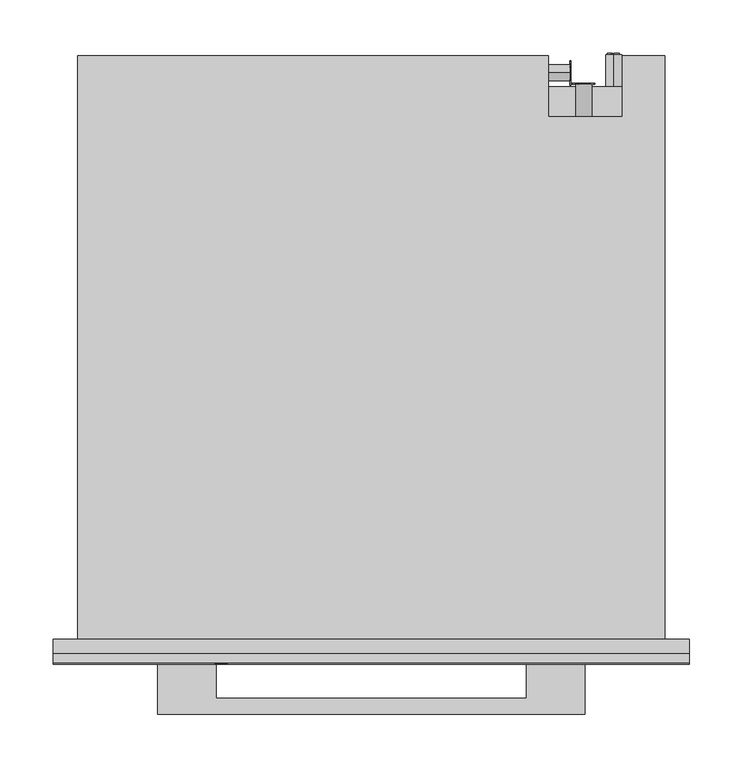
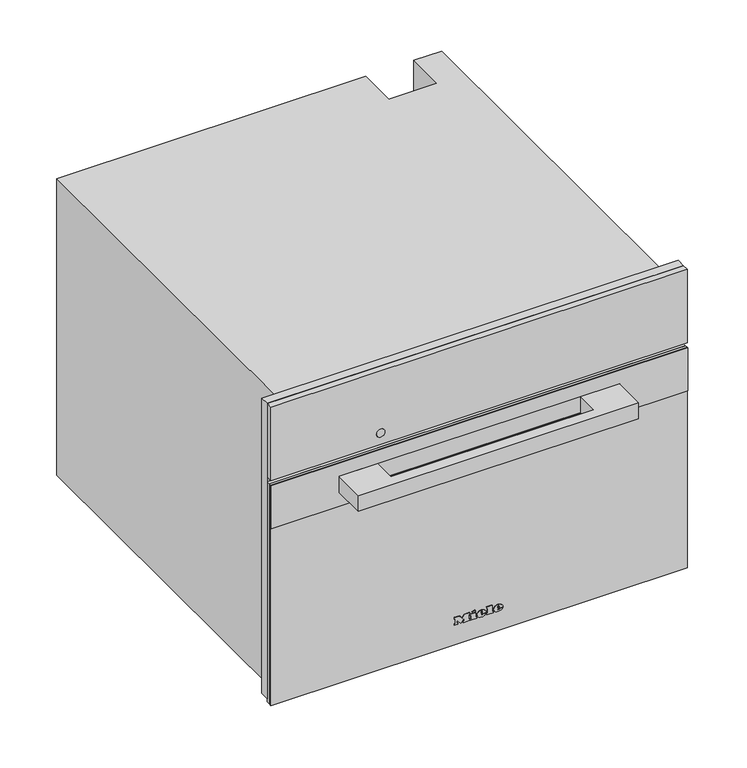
"""IFC4 building model written with IfcOpenShell, lengths in millimetres: proxy geometry, 12091740_NER_DGC7845HCPro_EDST-C : 23784548_NER_12091740_DGC7845HCPro_EDST-C."""

from ifc_helpers import new_model, si_unit, point, frame, frame_2d, origin, place, context, project, spatial, polyline, circle_curve, ellipse_curve, trimmed, segment, composite_curve, outline, extrude, faceted_brep, source, transform, mapped, element, save
from ifc_brep_helpers import plane_surface, cylinder_surface, revolved_surface, extruded_surface, advanced_brep


def specialty_equipment_19b5fff7(model_context):
    return source(origin(), model_context, "Body", "SolidModel", [
        extrude(outline(polyline([(455.0, 297.5), (455.0, -297.5), (9.0, -297.5), (9.0, 297.5), (455.0, 297.5)]), holes=[polyline([(344.0, -272.5), (344.0, 272.5), (27.0, 272.5), (27.0, -272.5), (344.0, -272.5)])]), frame((0.0, -13.0, 0.0), z_axis=(0.0, 1.0, 0.0), x_axis=(0.0, 0.0, 1.0)), (0.0, 0.0, 1.0), 13.0),
        extrude(outline(polyline([(383.0, 196.9217896), (383.0, 198.4267862), (393.0435673, 201.1942402), (393.0435673, 199.9014806), (384.4295103, 197.7797951), (393.0470645, 195.3087512), (393.0470645, 193.4373937), (384.4121052, 190.9191482), (393.0472266, 188.8443938), (393.0472266, 187.5376524), (383.0, 190.2769667), (383.0, 191.6257455), (391.8347238, 194.3884733), (383.0, 196.9217896)])), frame((0.0, 519.0, 0.0), z_axis=(0.0, 1.0, 0.0), x_axis=(0.0, 0.0, 1.0)), (0.0, 0.0, 1.0), 1.0),
        extrude(outline(polyline([(393.0468463, 209.521488), (393.0468463, 208.2566067), (388.129594, 208.2566067), (393.0474898, 203.1074328), (393.0474898, 201.3597489), (388.9313111, 205.6695027), (383.0, 201.1858157), (383.0, 202.7358731), (388.0700777, 206.5685235), (386.4282746, 208.2823622), (383.0, 208.2823622), (383.0, 209.521488), (393.0468463, 209.521488)])), frame((0.0, 519.0, 0.0), z_axis=(0.0, 1.0, 0.0), x_axis=(0.0, 0.0, 1.0)), (0.0, 0.0, 1.0), 1.0),
        extrude(outline(polyline([(518.3136153, 20.0), (522.323529, 30.045631), (523.3928394, 30.045631), (527.4027531, 20.0), (526.0759254, 20.0), (524.925681, 23.1392597), (520.7882348, 23.1392597), (519.640443, 20.0), (518.3136153, 20.0)]), holes=[polyline([(521.2493136, 24.3949636), (524.4670548, 24.3949636), (523.5620651, 26.864678), (522.8581842, 28.7899271), (522.2327848, 27.0805021), (521.2493136, 24.3949636)])]), frame((186.0, 0.0, 0.0), z_axis=(1.0, 0.0, 0.0), x_axis=(0.0, 1.0, 0.0)), (0.0, 0.0, 1.0), 1.0),
        extrude(outline(polyline([(530.5420128, 20.0), (527.8025182, 30.045631), (529.0974628, 30.045631), (530.6867131, 23.4433755), (531.1772224, 21.4053092), (531.7020674, 23.207931), (533.6935352, 30.045631), (535.5599232, 30.045631), (537.0069257, 25.0890343), (538.0835937, 21.4053092), (538.5593878, 23.3845144), (540.1633533, 30.045631), (541.4582979, 30.045631), (538.7163507, 20.0), (537.3748077, 20.0), (534.9664069, 27.7500474), (534.630408, 28.8316204), (534.2527159, 27.5293182), (532.0576866, 20.0), (530.5420128, 20.0)])), frame((186.0, 0.0, 0.0), z_axis=(1.0, 0.0, 0.0), x_axis=(0.0, 1.0, 0.0)), (0.0, 0.0, 1.0), 1.0),
        advanced_brep(
        [(227.0, 547.0, 255.5), (227.0, 547.0, 240.5), (221.4098301, 547.0, 243.0), (225.5, 547.0, 243.0), (225.5, 547.0, 253.0), (224.4955303, 547.0, 253.0), (224.4955303, 547.0, 244.0), (221.0315043, 547.0, 244.0), (221.0315043, 547.0, 243.4582978), (232.0, 547.0, 243.0), (232.0, 547.0, 253.0), (227.0, 547.0, 253.0), (227.0, 547.0, 252.0), (231.0, 547.0, 252.0), (231.0, 547.0, 248.5), (228.0, 547.0, 248.5), (228.0, 547.0, 247.5), (231.0, 547.0, 247.5), (231.0, 547.0, 244.0), (227.0, 547.0, 244.0), (227.0, 547.0, 243.0), (227.0, 517.0, 240.5), (227.0, 517.0, 255.5), (232.0, 548.0, 253.0), (232.0, 548.0, 243.0), (227.0, 548.0, 243.0), (227.0, 548.0, 244.0), (231.0, 548.0, 244.0), (231.0, 548.0, 247.5), (228.0, 548.0, 247.5), (228.0, 548.0, 248.5), (231.0, 548.0, 248.5), (231.0, 548.0, 252.0), (227.0, 548.0, 252.0), (227.0, 548.0, 253.0), (225.5, 548.0, 243.0), (221.0315043, 548.0, 243.0), (221.0315043, 548.0, 244.0), (224.4955303, 548.0, 244.0), (224.4955303, 548.0, 253.0), (225.5, 548.0, 253.0), (221.0315043, 547.0, 243.0)],
        [
            (0, 1, circle_curve(frame((227.0, 547.0, 248.0), z_axis=(0.0, 1.0, 0.0), x_axis=(0.0, 0.0, 1.0)), 7.5)),
            (1, 2, circle_curve(frame((227.0, 547.0, 248.0), z_axis=(0.0, 1.0, 0.0), x_axis=(0.0, 0.0, 1.0)), 7.5)),
            (2, 3),
            (3, 4),
            (4, 5),
            (5, 6),
            (6, 7),
            (7, 8),
            (8, 0, circle_curve(frame((227.0, 547.0, 248.0), z_axis=(0.0, 1.0, 0.0), x_axis=(0.0, 0.0, 1.0)), 7.5)),
            (9, 10),
            (10, 11),
            (11, 12),
            (12, 13),
            (13, 14),
            (14, 15),
            (15, 16),
            (16, 17),
            (17, 18),
            (18, 19),
            (19, 20),
            (20, 9),
            (21, 22, circle_curve(frame((227.0, 517.0, 248.0), z_axis=(0.0, -1.0, 0.0), x_axis=(0.0, 0.0, 1.0)), 7.5)),
            (22, 21, circle_curve(frame((227.0, 517.0, 248.0), z_axis=(0.0, -1.0, 0.0), x_axis=(0.0, 0.0, 1.0)), 7.5)),
            (0, 22),
            (21, 1),
            (8, 2, circle_curve(frame((227.0, 547.0, 248.0), z_axis=(0.0, -1.0, 0.0), x_axis=(0.0, 0.0, 1.0)), 7.5)),
            (23, 24),
            (24, 25),
            (25, 26),
            (26, 27),
            (27, 28),
            (28, 29),
            (29, 30),
            (30, 31),
            (31, 32),
            (32, 33),
            (33, 34),
            (34, 23),
            (35, 36),
            (36, 37),
            (37, 38),
            (38, 39),
            (39, 40),
            (40, 35),
            (8, 41),
            (41, 2),
            (23, 10),
            (9, 24),
            (20, 25),
            (19, 26),
            (18, 27),
            (17, 28),
            (16, 29),
            (15, 30),
            (14, 31),
            (13, 32),
            (12, 33),
            (11, 34),
            (35, 3),
            (41, 36),
            (7, 37),
            (6, 38),
            (5, 39),
            (4, 40),
        ],
        [
            plane_surface(frame((227.0, 547.0, 255.5), z_axis=(0.0, 1.0, 0.0), x_axis=(1.0, 0.0, 0.0))),
            plane_surface(frame((227.0, 517.0, 255.5), z_axis=(0.0, -1.0, 0.0), x_axis=(-1.0, 0.0, 0.0))),
            cylinder_surface(frame((227.0, 547.0, 248.0), z_axis=(0.0, -1.0, 0.0), x_axis=(0.0, 0.0, 1.0)), 7.5),
            plane_surface(frame((232.0, 548.0, 253.0), z_axis=(0.0, 1.0, 0.0), x_axis=(0.0, 0.0, -1.0))),
            plane_surface(frame((232.0, 547.0, 253.0), z_axis=(0.0, -1.0, 0.0), x_axis=(0.0, 0.0, 1.0))),
            plane_surface(frame((232.0, 548.0, 253.0), z_axis=(1.0, 0.0, 0.0), x_axis=(0.0, -1.0, 0.0))),
            plane_surface(frame((232.0, 548.0, 243.0), z_axis=(0.0, 0.0, -1.0), x_axis=(0.0, -1.0, 0.0))),
            plane_surface(frame((227.0, 548.0, 243.0), z_axis=(-1.0, 0.0, 0.0), x_axis=(0.0, -1.0, 0.0))),
            plane_surface(frame((227.0, 548.0, 244.0), z_axis=(0.0, 0.0, 1.0), x_axis=(0.0, -1.0, 0.0))),
            plane_surface(frame((231.0, 548.0, 244.0), z_axis=(-1.0, 0.0, 0.0), x_axis=(0.0, -1.0, 0.0))),
            plane_surface(frame((231.0, 548.0, 247.5), z_axis=(0.0, 0.0, -1.0), x_axis=(0.0, -1.0, 0.0))),
            plane_surface(frame((228.0, 548.0, 247.5), z_axis=(-1.0, 0.0, 0.0), x_axis=(0.0, -1.0, 0.0))),
            plane_surface(frame((228.0, 548.0, 248.5), z_axis=(0.0, 0.0, 1.0), x_axis=(0.0, -1.0, 0.0))),
            plane_surface(frame((231.0, 548.0, 248.5), z_axis=(-1.0, 0.0, 0.0), x_axis=(0.0, -1.0, 0.0))),
            plane_surface(frame((231.0, 548.0, 252.0), z_axis=(0.0, 0.0, -1.0), x_axis=(0.0, -1.0, 0.0))),
            plane_surface(frame((227.0, 548.0, 252.0), z_axis=(-1.0, 0.0, 0.0), x_axis=(0.0, -1.0, 0.0))),
            plane_surface(frame((227.0, 548.0, 253.0), z_axis=(0.0, 0.0, 1.0), x_axis=(0.0, -1.0, 0.0))),
            plane_surface(frame((225.5, 548.0, 243.0), z_axis=(0.0, 0.0, -1.0), x_axis=(0.0, -1.0, 0.0))),
            plane_surface(frame((221.0315043, 548.0, 243.0), z_axis=(-1.0, 0.0, 0.0), x_axis=(0.0, -1.0, 0.0))),
            plane_surface(frame((221.0315043, 548.0, 244.0), z_axis=(0.0, 0.0, 1.0), x_axis=(0.0, -1.0, 0.0))),
            plane_surface(frame((224.4955303, 548.0, 244.0), z_axis=(-1.0, 0.0, 0.0), x_axis=(0.0, -1.0, 0.0))),
            plane_surface(frame((224.4955303, 548.0, 253.0), z_axis=(0.0, 0.0, 1.0), x_axis=(0.0, -1.0, 0.0))),
            plane_surface(frame((225.5, 548.0, 253.0), z_axis=(1.0, 0.0, 0.0), x_axis=(0.0, -1.0, 0.0))),
        ],
        [
            (0, [[1, 2, 3, 4, 5, 6, 7, 8, 9], [10, 11, 12, 13, 14, 15, 16, 17, 18, 19, 20, 21]]),
            (1, [[22, 23]]),
            (2, [[-1, 24, -22, 25]]),
            (2, [[-23, -24, -9, 26, -2, -25]]),
            (3, [[27, 28, 29, 30, 31, 32, 33, 34, 35, 36, 37, 38]]),
            (3, [[39, 40, 41, 42, 43, 44]]),
            (4, [[45, 46, -26]]),
            (5, [[-27, 47, -10, 48]]),
            (6, [[-28, -48, -21, 49]]),
            (7, [[-29, -49, -20, 50]]),
            (8, [[-30, -50, -19, 51]]),
            (9, [[-31, -51, -18, 52]]),
            (10, [[-32, -52, -17, 53]]),
            (11, [[-33, -53, -16, 54]]),
            (12, [[-34, -54, -15, 55]]),
            (13, [[-35, -55, -14, 56]]),
            (14, [[-36, -56, -13, 57]]),
            (15, [[-37, -57, -12, 58]]),
            (16, [[-38, -58, -11, -47]]),
            (17, [[-39, 59, -3, -46, 60]]),
            (18, [[-40, -60, -45, -8, 61]]),
            (19, [[-41, -61, -7, 62]]),
            (20, [[-42, -62, -6, 63]]),
            (21, [[-43, -63, -5, 64]]),
            (22, [[-44, -64, -4, -59]]),
        ],
    ),
        extrude(outline(composite_curve([segment(trimmed(circle_curve(frame_2d((388.0, 199.0)), 7.5), [point((388.0, 206.5))], [point((388.0, 191.5))], False, "CARTESIAN"), True, "CONTINUOUS"), segment(trimmed(circle_curve(frame_2d((388.0, 199.0)), 7.5), [point((388.0, 191.5))], [point((388.0, 206.5))], False, "CARTESIAN"), True, "CONTINUOUS")], self_intersect=False)), frame((0.0, 489.0, 0.0), z_axis=(0.0, 1.0, 0.0), x_axis=(0.0, 0.0, 1.0)), (0.0, 0.0, 1.0), 30.0),
        extrude(outline(composite_curve([segment(trimmed(circle_curve(frame_2d((530.0, 25.0)), 7.5), [point((530.0, 17.5))], [point((530.0, 32.5))], False, "CARTESIAN"), True, "CONTINUOUS"), segment(trimmed(circle_curve(frame_2d((530.0, 25.0)), 7.5), [point((530.0, 32.5))], [point((530.0, 17.5))], False, "CARTESIAN"), True, "CONTINUOUS")], self_intersect=False)), frame((166.0, 0.0, 0.0), z_axis=(1.0, 0.0, 0.0), x_axis=(0.0, 1.0, 0.0)), (0.0, 0.0, 1.0), 20.0),
        faceted_brep([(-275.0, 546.0, 0.0), (-275.0, 546.0, 448.0), (166.0, 546.0, 448.0), (166.0, 546.0, 0.0), (235.0, 546.0, 448.0), (275.0, 546.0, 448.0), (275.0, 546.0, 338.0), (235.0, 546.0, 338.0), (275.0, 0.0, 448.0), (-275.0, 0.0, 448.0), (-275.0, 0.0, 0.0), (275.0, 0.0, 0.0), (-272.5, 0.0, 344.0), (272.5, 0.0, 344.0), (272.5, 0.0, 27.0), (-272.5, 0.0, 27.0), (235.0, 489.0, 448.0), (166.0, 489.0, 448.0), (166.0, 517.0, 0.0), (275.0, 517.0, 0.0), (275.0, 517.0, 338.0), (272.5, 17.0, 344.0), (-272.5, 17.0, 344.0), (-272.5, 17.0, 27.0), (272.5, 17.0, 27.0), (231.0, 17.0, 307.0), (231.0, 17.0, 65.0), (-231.0, 17.0, 65.0), (-231.0, 17.0, 307.0), (231.0, 411.0, 307.0), (-231.0, 411.0, 307.0), (-231.0, 411.0, 65.0), (231.0, 411.0, 65.0), (235.0, 489.0, 337.0), (166.0, 489.0, 337.0), (166.0, 517.0, 337.0), (235.0, 517.0, 337.0), (235.0, 517.0, 338.0)], [[[0, 1, 2, 3]], [[4, 5, 6, 7]], [[8, 9, 10, 11], [12, 13, 14, 15]], [[9, 8, 5, 4, 16, 17, 2, 1]], [[1, 0, 10, 9]], [[11, 10, 0, 3, 18, 19]], [[8, 11, 19, 20, 6, 5]], [[21, 22, 23, 24], [25, 26, 27, 28]], [[22, 21, 13, 12]], [[23, 22, 12, 15]], [[24, 23, 15, 14]], [[21, 24, 14, 13]], [[29, 30, 31, 32]], [[29, 32, 26, 25]], [[32, 31, 27, 26]], [[31, 30, 28, 27]], [[30, 29, 25, 28]], [[16, 33, 34, 17]], [[17, 34, 35, 18, 3, 2]], [[34, 33, 36, 35]], [[33, 16, 4, 7, 37, 36]], [[37, 20, 19, 18, 35, 36]], [[20, 37, 7, 6]]]),
        advanced_brep(
        [(26.2998, -23.0, 36.7018), (26.2998, -23.0, 37.8532), (33.9264, -23.0, 37.8532), (20.6568, -23.0, 37.8532), (23.7918, -23.0, 34.0), (33.7326, -23.0, 36.7018), (30.2898, -23.0, 36.7018), (27.5766, -23.0, 35.425), (26.2998, -23.0, 39.3124), (26.2998, -23.0, 40.555), (28.2492, -23.0, 40.555), (28.2492, -23.0, 39.3124), (26.2998, -22.0, 36.7018), (27.5766, -22.0, 35.425), (30.2898, -22.0, 36.7018), (33.7326, -22.0, 36.7018), (23.7918, -22.0, 34.0), (20.6568, -22.0, 37.8532), (33.9264, -22.0, 37.8532), (26.2998, -22.0, 37.8532), (26.2998, -22.0, 39.3124), (28.2492, -22.0, 39.3124), (28.2492, -22.0, 40.555), (26.2998, -22.0, 40.555)],
        [
            (0, 1),
            (1, 2),
            (2, 3, ellipse_curve(frame((27.2916, -23.0, 37.8532), z_axis=(0.0, -1.0, 0.0), x_axis=(-1.0, 0.0, 0.0)), 6.6348, 5.4834)),
            (3, 4, circle_curve(frame((25.0686622, -23.0, 38.2408), z_axis=(0.0, -1.0, 0.0), x_axis=(0.0, 0.0, -1.0)), 4.4288556)),
            (4, 5, circle_curve(frame((27.1587808, -23.0, 41.2504), z_axis=(0.0, -1.0, 0.0), x_axis=(0.0, 0.0, -1.0)), 7.9940516)),
            (5, 6),
            (6, 7, circle_curve(frame((28.1338588, -23.0, 37.762), z_axis=(0.0, 1.0, 0.0), x_axis=(0.0, 0.0, -1.0)), 2.4025208)),
            (7, 0, circle_curve(frame((27.5766, -23.0, 36.7018), z_axis=(0.0, 1.0, 0.0), x_axis=(0.0, 0.0, -1.0)), 1.2768)),
            (8, 9),
            (9, 10, circle_curve(frame((27.2745, -23.0, 40.555), z_axis=(0.0, 1.0, 0.0), x_axis=(0.0, 0.0, -1.0)), 0.9747)),
            (10, 11),
            (11, 8),
            (12, 13, circle_curve(frame((27.5766, -22.0, 36.7018), z_axis=(0.0, -1.0, 0.0), x_axis=(0.0, 0.0, -1.0)), 1.2768)),
            (13, 14, circle_curve(frame((28.1338588, -22.0, 37.762), z_axis=(0.0, -1.0, 0.0), x_axis=(0.0, 0.0, -1.0)), 2.4025208)),
            (14, 15),
            (15, 16, circle_curve(frame((27.1587808, -22.0, 41.2504), z_axis=(0.0, 1.0, 0.0), x_axis=(0.0, 0.0, -1.0)), 7.9940516)),
            (16, 17, circle_curve(frame((25.0686622, -22.0, 38.2408), z_axis=(0.0, 1.0, 0.0), x_axis=(0.0, 0.0, -1.0)), 4.4288556)),
            (17, 18, ellipse_curve(frame((27.2916, -22.0, 37.8532), z_axis=(0.0, 1.0, 0.0), x_axis=(-1.0, 0.0, 0.0)), 6.6348, 5.4834)),
            (18, 19),
            (19, 12),
            (20, 21),
            (21, 22),
            (22, 23, circle_curve(frame((27.2745, -22.0, 40.555), z_axis=(0.0, -1.0, 0.0), x_axis=(0.0, 0.0, -1.0)), 0.9747)),
            (23, 20),
            (0, 12),
            (19, 1),
            (18, 2),
            (5, 15),
            (14, 6),
            (17, 3),
            (13, 7),
            (16, 4),
            (8, 20),
            (23, 9),
            (22, 10),
            (21, 11),
        ],
        [
            plane_surface(frame((26.2998, -23.0, 37.8532), z_axis=(0.0, -1.0, 0.0), x_axis=(0.0, 0.0, 1.0))),
            plane_surface(frame((26.2998, -22.0, 37.8532), z_axis=(0.0, 1.0, 0.0), x_axis=(0.0, 0.0, -1.0))),
            plane_surface(frame((26.2998, -23.0, 36.7018), z_axis=(1.0, 0.0, 0.0), x_axis=(0.0, 1.0, 0.0))),
            plane_surface(frame((26.2998, -23.0, 37.8532), z_axis=(0.0, 0.0, -1.0), x_axis=(0.0, 1.0, 0.0))),
            plane_surface(frame((33.7326, -23.0, 36.7018), z_axis=(0.0, 0.0, 1.0), x_axis=(0.0, 1.0, 0.0))),
            extruded_surface(trimmed(ellipse_curve(frame((27.2916, -21.0, 37.8532), z_axis=(0.0, -1.0, 0.0), x_axis=(-1.0, 0.0, 0.0)), 6.6348, 5.4834), [point((33.9264, -21.0, 37.8532))], [point((20.6568, -21.0, 37.8532))], True, "CARTESIAN"), (0.0, -1.0, 0.0), 1.0),
            revolved_surface(polyline([(28.1338588, -22.0, 35.3594792), (28.1338588, -23.0, 35.3594792)]), (28.1338588, -22.0, 37.762), (0.0, 1.0, 0.0)),
            revolved_surface(polyline([(27.5766, -22.0, 35.425), (27.5766, -23.0, 35.425)]), (27.5766, -22.0, 36.7018), (0.0, 1.0, 0.0)),
            cylinder_surface(frame((25.0686622, -22.0, 38.2408), z_axis=(0.0, -1.0, 0.0), x_axis=(0.0, 0.0, -1.0)), 4.4288556),
            cylinder_surface(frame((27.1587808, -22.0, 41.2504), z_axis=(0.0, -1.0, 0.0), x_axis=(0.0, 0.0, -1.0)), 7.9940516),
            plane_surface(frame((26.2998, -23.0, 39.3124), z_axis=(1.0, 0.0, 0.0), x_axis=(0.0, 1.0, 0.0))),
            revolved_surface(polyline([(27.2745, -22.0, 39.5803), (27.2745, -23.0, 39.5803)]), (27.2745, -22.0, 40.555), (0.0, 1.0, 0.0)),
            plane_surface(frame((28.2492, -23.0, 40.555), z_axis=(-1.0, 0.0, 0.0), x_axis=(0.0, 1.0, 0.0))),
            plane_surface(frame((28.2492, -23.0, 39.3124), z_axis=(0.0, 0.0, 1.0), x_axis=(0.0, 1.0, 0.0))),
        ],
        [
            (0, [[1, 2, 3, 4, 5, 6, 7, 8], [9, 10, 11, 12]]),
            (1, [[13, 14, 15, 16, 17, 18, 19, 20], [21, 22, 23, 24]]),
            (2, [[-1, 25, -20, 26]]),
            (3, [[-2, -26, -19, 27]]),
            (4, [[-6, 28, -15, 29]]),
            (5, [[-3, -27, -18, 30]]),
            (6, [[-7, -29, -14, 31]]),
            (7, [[-8, -31, -13, -25]]),
            (8, [[-4, -30, -17, 32]]),
            (9, [[-5, -32, -16, -28]]),
            (10, [[-9, 33, -24, 34]]),
            (11, [[-10, -34, -23, 35]]),
            (12, [[-11, -35, -22, 36]]),
            (13, [[-12, -36, -21, -33]]),
        ],
    ),
        advanced_brep(
        [(2.508, -23.0, 36.7018), (2.508, -23.0, 37.8532), (10.1346, -23.0, 37.8532), (-3.135, -23.0, 37.8532), (0.0, -23.0, 34.0), (9.9408, -23.0, 36.7018), (6.498, -23.0, 36.7018), (3.7848, -23.0, 35.425), (2.508, -23.0, 39.3124), (2.508, -23.0, 40.555), (4.4574, -23.0, 40.555), (4.4574, -23.0, 39.3124), (2.508, -22.0, 36.7018), (3.7848, -22.0, 35.425), (6.498, -22.0, 36.7018), (9.9408, -22.0, 36.7018), (0.0, -22.0, 34.0), (-3.135, -22.0, 37.8532), (10.1346, -22.0, 37.8532), (2.508, -22.0, 37.8532), (2.508, -22.0, 39.3124), (4.4574, -22.0, 39.3124), (4.4574, -22.0, 40.555), (2.508, -22.0, 40.555)],
        [
            (0, 1),
            (1, 2),
            (2, 3, ellipse_curve(frame((3.4998, -23.0, 37.8532), z_axis=(0.0, -1.0, 0.0), x_axis=(-1.0, 0.0, 0.0)), 6.6348, 5.4834)),
            (3, 4, circle_curve(frame((1.2768622, -23.0, 38.2408), z_axis=(0.0, -1.0, 0.0), x_axis=(0.0, 0.0, -1.0)), 4.4288556)),
            (4, 5, circle_curve(frame((3.3669808, -23.0, 41.2504), z_axis=(0.0, -1.0, 0.0), x_axis=(0.0, 0.0, -1.0)), 7.9940516)),
            (5, 6),
            (6, 7, circle_curve(frame((4.3420588, -23.0, 37.762), z_axis=(0.0, 1.0, 0.0), x_axis=(0.0, 0.0, -1.0)), 2.4025208)),
            (7, 0, circle_curve(frame((3.7848, -23.0, 36.7018), z_axis=(0.0, 1.0, 0.0), x_axis=(0.0, 0.0, -1.0)), 1.2768)),
            (8, 9),
            (9, 10, circle_curve(frame((3.4827, -23.0, 40.555), z_axis=(0.0, 1.0, 0.0), x_axis=(0.0, 0.0, -1.0)), 0.9747)),
            (10, 11),
            (11, 8),
            (12, 13, circle_curve(frame((3.7848, -22.0, 36.7018), z_axis=(0.0, -1.0, 0.0), x_axis=(0.0, 0.0, -1.0)), 1.2768)),
            (13, 14, circle_curve(frame((4.3420588, -22.0, 37.762), z_axis=(0.0, -1.0, 0.0), x_axis=(0.0, 0.0, -1.0)), 2.4025208)),
            (14, 15),
            (15, 16, circle_curve(frame((3.3669808, -22.0, 41.2504), z_axis=(0.0, 1.0, 0.0), x_axis=(0.0, 0.0, -1.0)), 7.9940516)),
            (16, 17, circle_curve(frame((1.2768622, -22.0, 38.2408), z_axis=(0.0, 1.0, 0.0), x_axis=(0.0, 0.0, -1.0)), 4.4288556)),
            (17, 18, ellipse_curve(frame((3.4998, -22.0, 37.8532), z_axis=(0.0, 1.0, 0.0), x_axis=(-1.0, 0.0, 0.0)), 6.6348, 5.4834)),
            (18, 19),
            (19, 12),
            (20, 21),
            (21, 22),
            (22, 23, circle_curve(frame((3.4827, -22.0, 40.555), z_axis=(0.0, -1.0, 0.0), x_axis=(0.0, 0.0, -1.0)), 0.9747)),
            (23, 20),
            (0, 12),
            (19, 1),
            (18, 2),
            (5, 15),
            (14, 6),
            (17, 3),
            (13, 7),
            (16, 4),
            (8, 20),
            (23, 9),
            (22, 10),
            (21, 11),
        ],
        [
            plane_surface(frame((2.508, -23.0, 37.8532), z_axis=(0.0, -1.0, 0.0), x_axis=(0.0, 0.0, 1.0))),
            plane_surface(frame((2.508, -22.0, 37.8532), z_axis=(0.0, 1.0, 0.0), x_axis=(0.0, 0.0, -1.0))),
            plane_surface(frame((2.508, -23.0, 36.7018), z_axis=(1.0, 0.0, 0.0), x_axis=(0.0, 1.0, 0.0))),
            plane_surface(frame((2.508, -23.0, 37.8532), z_axis=(0.0, 0.0, -1.0), x_axis=(0.0, 1.0, 0.0))),
            plane_surface(frame((9.9408, -23.0, 36.7018), z_axis=(0.0, 0.0, 1.0), x_axis=(0.0, 1.0, 0.0))),
            extruded_surface(trimmed(ellipse_curve(frame((3.4998, -21.0, 37.8532), z_axis=(0.0, -1.0, 0.0), x_axis=(-1.0, 0.0, 0.0)), 6.6348, 5.4834), [point((10.1346, -21.0, 37.8532))], [point((-3.135, -21.0, 37.8532))], True, "CARTESIAN"), (0.0, -1.0, 0.0), 1.0),
            revolved_surface(polyline([(4.3420588, -22.0, 35.3594792), (4.3420588, -23.0, 35.3594792)]), (4.3420588, -22.0, 37.762), (0.0, 1.0, 0.0)),
            revolved_surface(polyline([(3.7848, -22.0, 35.425), (3.7848, -23.0, 35.425)]), (3.7848, -22.0, 36.7018), (0.0, 1.0, 0.0)),
            cylinder_surface(frame((1.2768622, -22.0, 38.2408), z_axis=(0.0, -1.0, 0.0), x_axis=(0.0, 0.0, -1.0)), 4.4288556),
            cylinder_surface(frame((3.3669808, -22.0, 41.2504), z_axis=(0.0, -1.0, 0.0), x_axis=(0.0, 0.0, -1.0)), 7.9940516),
            plane_surface(frame((2.508, -23.0, 39.3124), z_axis=(1.0, 0.0, 0.0), x_axis=(0.0, 1.0, 0.0))),
            revolved_surface(polyline([(3.4827, -22.0, 39.5803), (3.4827, -23.0, 39.5803)]), (3.4827, -22.0, 40.555), (0.0, 1.0, 0.0)),
            plane_surface(frame((4.4574, -23.0, 40.555), z_axis=(-1.0, 0.0, 0.0), x_axis=(0.0, 1.0, 0.0))),
            plane_surface(frame((4.4574, -23.0, 39.3124), z_axis=(0.0, 0.0, 1.0), x_axis=(0.0, 1.0, 0.0))),
        ],
        [
            (0, [[1, 2, 3, 4, 5, 6, 7, 8], [9, 10, 11, 12]]),
            (1, [[13, 14, 15, 16, 17, 18, 19, 20], [21, 22, 23, 24]]),
            (2, [[-1, 25, -20, 26]]),
            (3, [[-2, -26, -19, 27]]),
            (4, [[-6, 28, -15, 29]]),
            (5, [[-3, -27, -18, 30]]),
            (6, [[-7, -29, -14, 31]]),
            (7, [[-8, -31, -13, -25]]),
            (8, [[-4, -30, -17, 32]]),
            (9, [[-5, -32, -16, -28]]),
            (10, [[-9, 33, -24, 34]]),
            (11, [[-10, -34, -23, 35]]),
            (12, [[-11, -35, -22, 36]]),
            (13, [[-12, -36, -21, -33]]),
        ],
    ),
        extrude(outline(polyline([(44.7274, -9.9522), (42.8806, -9.0858), (44.6818, -5.2212), (46.5286, -6.0762), (44.7274, -9.9522)])), frame((0.0, -23.0, 0.0), z_axis=(0.0, 1.0, 0.0), x_axis=(0.0, 0.0, 1.0)), (0.0, 0.0, 1.0), 1.0),
        extrude(outline(polyline([(42.6298, -12.768), (40.5892, -12.768), (40.5892, -11.4114), (35.9152, -11.4114), (35.9152, -12.768), (34.0, -12.768), (34.0, -3.7734), (35.9152, -3.7734), (35.9152, -5.0958), (42.6298, -5.0958), (42.6298, -12.768)])), frame((0.0, -23.0, 0.0), z_axis=(0.0, 1.0, 0.0), x_axis=(0.0, 0.0, 1.0)), (0.0, 0.0, 1.0), 1.0),
        extrude(outline(polyline([(43.5418, 10.773), (43.5418, 12.141), (35.9152, 12.141), (35.9152, 10.773), (34.0, 10.773), (34.0, 20.0184), (35.9152, 20.0184), (35.9152, 18.6162), (45.4, 18.6162), (45.4, 10.773), (43.5418, 10.773)])), frame((0.0, -23.0, 0.0), z_axis=(0.0, 1.0, 0.0), x_axis=(0.0, 0.0, 1.0)), (0.0, 0.0, 1.0), 1.0),
        extrude(outline(polyline([(43.5418, -35.4882), (43.5418, -34.1088), (35.9152, -34.1088), (35.9152, -35.4882), (34.0, -35.4882), (34.0, -30.4722), (35.9152, -30.4722), (35.9152, -31.8402), (40.7429247, -31.8402), (34.0, -26.7444), (40.9402223, -21.6258), (35.9152, -21.6258), (35.9152, -23.028), (34.0, -23.028), (34.0, -13.9308), (35.9152, -13.9308), (35.9152, -15.3786), (43.5418, -15.3786), (43.5418, -13.9308), (45.4, -13.9308), (45.4, -20.8734), (41.125, -24.2022), (45.4, -27.5424), (45.4, -35.4882), (43.5418, -35.4882)])), frame((0.0, -23.0, 0.0), z_axis=(0.0, 1.0, 0.0), x_axis=(0.0, 0.0, 1.0)), (0.0, 0.0, 1.0), 1.0),
        extrude(outline(polyline([(297.5, -22.0), (-297.5, -22.0), (-297.5, -13.0), (297.5, -13.0), (297.5, -22.0)])), frame((0.0, 0.0, 344.0), z_axis=(0.0, 0.0, 1.0), x_axis=(1.0, 0.0, 0.0)), (0.0, 0.0, 1.0), 111.0),
        extrude(outline(composite_curve([segment(trimmed(circle_curve(frame_2d((361.0, -140.5745637)), 6.0), [point((361.0, -146.5745637))], [point((361.0, -134.5745637))], False, "CARTESIAN"), True, "CONTINUOUS"), segment(trimmed(circle_curve(frame_2d((361.0, -140.5745637)), 6.0), [point((361.0, -134.5745637))], [point((361.0, -146.5745637))], False, "CARTESIAN"), True, "CONTINUOUS")], self_intersect=False)), frame((0.0, -22.5, 0.0), z_axis=(0.0, 1.0, 0.0), x_axis=(0.0, 0.0, 1.0)), (0.0, 0.0, 1.0), 1.0),
        extrude(outline(polyline([(297.5, -18.0), (-297.5, -18.0), (-297.5, -13.0), (297.5, -13.0), (297.5, -18.0)])), frame((0.0, 0.0, 4.0), z_axis=(0.0, 0.0, 1.0), x_axis=(1.0, 0.0, 0.0)), (0.0, 0.0, 1.0), 333.0),
        extrude(outline(polyline([(-297.5, -18.0), (297.5, -18.0), (297.5, -22.0), (-297.5, -22.0), (-297.5, -18.0)])), frame((0.0, 0.0, 4.0), z_axis=(0.0, 0.0, 1.0), x_axis=(1.0, 0.0, 0.0)), (0.0, 0.0, 1.0), 333.0),
        extrude(outline(polyline([(-200.0, -70.3), (-200.0, -22.0), (-145.0, -22.0), (-145.0, -55.3), (145.0, -55.3), (145.0, -22.0), (200.0, -22.0), (200.0, -70.3), (-200.0, -70.3)])), frame((0.0, 0.0, 292.5), z_axis=(0.0, 0.0, 1.0), x_axis=(1.0, 0.0, 0.0)), (0.0, 0.0, 1.0), 24.0),
        extrude(outline(polyline([(337.0, 297.5), (337.0, -297.5), (272.0, -297.5), (272.0, 297.5), (337.0, 297.5)]), holes=[polyline([(317.0, -200.5), (317.0, 200.5), (292.0, 200.5), (292.0, -200.5), (317.0, -200.5)])]), frame((0.0, -23.3, 0.0), z_axis=(0.0, 1.0, 0.0), x_axis=(0.0, 0.0, 1.0)), (0.0, 0.0, 1.0), 1.3),
    ])


if __name__ == "__main__":
    model = new_model("IFC4")
    model_context = context("Model", 3, world=origin())
    ifc_project = project(units=[si_unit("LENGTHUNIT", "METRE", prefix="MILLI")], contexts=[model_context])
    site = spatial("IfcSite", under=ifc_project)
    building = spatial("IfcBuilding", under=site)
    placement = place(None, origin())
    specialty_equipment_shape = specialty_equipment_19b5fff7(model_context)
    element("IfcBuildingElementProxy", 1, Name="12091740_NER_DGC7845HCPro_EDST-C : 23784548_NER_12091740_DGC7845HCPro_EDST-C", ObjectType="12091740_NER_DGC7845HCPro_EDST-C : 23784548_NER_12091740_DGC7845HCPro_EDST-C", at=placement, inside=building, context=model_context, shape_type="MappedRepresentation", body=[
        mapped(specialty_equipment_shape, transform((0.0, 0.0, 0.0), x_axis=(1.0, 0.0, 0.0), y_axis=(0.0, 1.0, 0.0), z_axis=(0.0, 0.0, 1.0))),
    ])
    save(model, "model.ifc")
